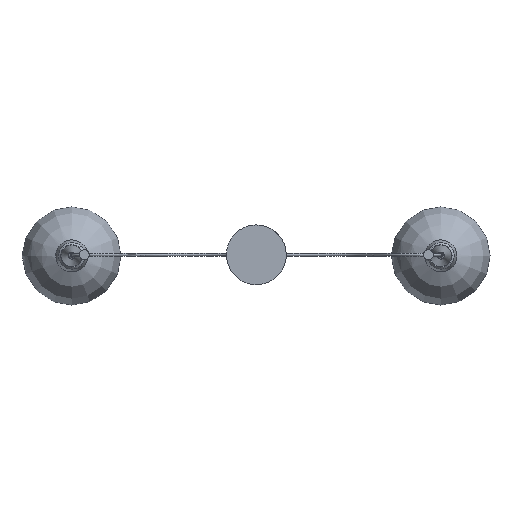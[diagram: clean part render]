
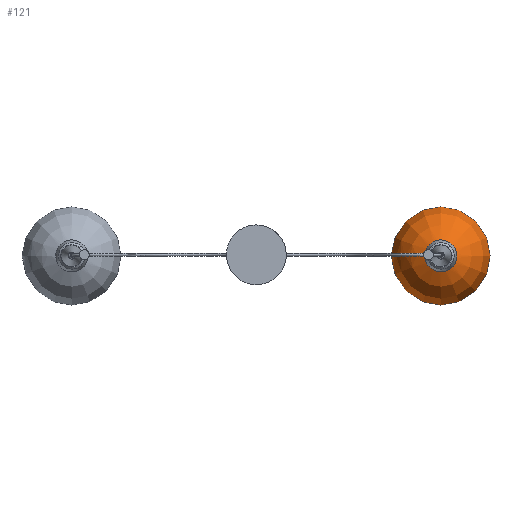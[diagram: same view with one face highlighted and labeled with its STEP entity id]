
A CAD part, top view. The second image highlights one B-rep face of the part: STEP entity #121.
In plain terms, the highlighted free-form (B-spline) face has degree [2, 2] with [5, 9] control points.
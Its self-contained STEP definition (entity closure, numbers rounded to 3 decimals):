
#71=(
BOUNDED_SURFACE()
B_SPLINE_SURFACE(2,2,((#1538,#1539,#1540,#1541,#1542,#1543,#1544,#1545,
#1546),(#1547,#1548,#1549,#1550,#1551,#1552,#1553,#1554,#1555),(#1556,#1557,
#1558,#1559,#1560,#1561,#1562,#1563,#1564),(#1565,#1566,#1567,#1568,#1569,
#1570,#1571,#1572,#1573),(#1574,#1575,#1576,#1577,#1578,#1579,#1580,#1581,
#1582)),.UNSPECIFIED.,.F.,.F.,.F.)
B_SPLINE_SURFACE_WITH_KNOTS((3,2,3),(3,2,2,2,3),(-281.447,-140.723,
0.),(0.,157.072,314.144,471.217,628.289),
 .UNSPECIFIED.)
GEOMETRIC_REPRESENTATION_ITEM()
RATIONAL_B_SPLINE_SURFACE(((1.,0.707,1.,0.707,1.,
0.707,1.,0.707,1.),(0.763,0.539,
0.763,0.539,0.763,0.539,
0.763,0.539,0.763),(1.,0.707,
1.,0.707,1.,0.707,1.,0.707,1.),(0.763,
0.539,0.763,0.539,0.763,
0.539,0.763,0.539,0.763),
(1.,0.707,1.,0.707,1.,0.707,1.,0.707,
1.)))
REPRESENTATION_ITEM('')
SURFACE()
);
#121=ADVANCED_FACE('',(#173),#71,.T.);
#173=FACE_OUTER_BOUND('',#225,.T.);
#225=EDGE_LOOP('',(#323,#324,#325));
#323=ORIENTED_EDGE('',*,*,#469,.T.);
#324=ORIENTED_EDGE('',*,*,#465,.F.);
#325=ORIENTED_EDGE('',*,*,#465,.T.);
#465=EDGE_CURVE('',#639,#643,#565,.T.);
#469=EDGE_CURVE('',#643,#643,#567,.T.);
#565=(
BOUNDED_CURVE()
B_SPLINE_CURVE(2,(#1651,#1652,#1653,#1654,#1655),.UNSPECIFIED.,.F.,.F.)
B_SPLINE_CURVE_WITH_KNOTS((3,2,3),(-281.447,-140.723,
0.),.UNSPECIFIED.)
CURVE()
GEOMETRIC_REPRESENTATION_ITEM()
RATIONAL_B_SPLINE_CURVE((1.,0.763,1.,0.763,1.))
REPRESENTATION_ITEM('')
);
#567=(
BOUNDED_CURVE()
B_SPLINE_CURVE(2,(#1665,#1666,#1667,#1668,#1669,#1670,#1671,#1672,#1673),
 .UNSPECIFIED.,.T.,.F.)
B_SPLINE_CURVE_WITH_KNOTS((3,2,2,2,3),(0.,157.072,314.144,
471.217,628.289),.UNSPECIFIED.)
CURVE()
GEOMETRIC_REPRESENTATION_ITEM()
RATIONAL_B_SPLINE_CURVE((1.,0.707,1.,0.707,1.,0.707,
1.,0.707,1.))
REPRESENTATION_ITEM('')
);
#639=VERTEX_POINT('',#1646);
#643=VERTEX_POINT('',#1650);
#1538=CARTESIAN_POINT('',(-672.837,-642.283,-316.014));
#1539=CARTESIAN_POINT('',(-672.837,-642.283,-316.014));
#1540=CARTESIAN_POINT('',(-672.837,-642.283,-316.014));
#1541=CARTESIAN_POINT('',(-672.837,-642.283,-316.014));
#1542=CARTESIAN_POINT('',(-672.837,-642.283,-316.014));
#1543=CARTESIAN_POINT('',(-672.837,-642.283,-316.014));
#1544=CARTESIAN_POINT('',(-672.837,-642.283,-316.014));
#1545=CARTESIAN_POINT('',(-672.837,-642.283,-316.014));
#1546=CARTESIAN_POINT('',(-672.837,-642.283,-316.014));
#1547=CARTESIAN_POINT('',(-757.686,-642.283,-316.014));
#1548=CARTESIAN_POINT('',(-757.686,-557.434,-316.014));
#1549=CARTESIAN_POINT('',(-672.837,-557.434,-316.014));
#1550=CARTESIAN_POINT('',(-587.988,-557.434,-316.014));
#1551=CARTESIAN_POINT('',(-587.988,-642.283,-316.014));
#1552=CARTESIAN_POINT('',(-587.988,-727.132,-316.014));
#1553=CARTESIAN_POINT('',(-672.837,-727.132,-316.014));
#1554=CARTESIAN_POINT('',(-757.686,-727.132,-316.014));
#1555=CARTESIAN_POINT('',(-757.686,-642.283,-316.014));
#1556=CARTESIAN_POINT('',(-771.502,-642.283,-232.298));
#1557=CARTESIAN_POINT('',(-771.502,-543.618,-232.298));
#1558=CARTESIAN_POINT('',(-672.837,-543.618,-232.298));
#1559=CARTESIAN_POINT('',(-574.171,-543.618,-232.298));
#1560=CARTESIAN_POINT('',(-574.171,-642.283,-232.298));
#1561=CARTESIAN_POINT('',(-574.171,-740.949,-232.298));
#1562=CARTESIAN_POINT('',(-672.837,-740.949,-232.298));
#1563=CARTESIAN_POINT('',(-771.502,-740.949,-232.298));
#1564=CARTESIAN_POINT('',(-771.502,-642.283,-232.298));
#1565=CARTESIAN_POINT('',(-785.318,-642.283,-148.581));
#1566=CARTESIAN_POINT('',(-785.318,-529.802,-148.581));
#1567=CARTESIAN_POINT('',(-672.837,-529.802,-148.581));
#1568=CARTESIAN_POINT('',(-560.355,-529.802,-148.581));
#1569=CARTESIAN_POINT('',(-560.355,-642.283,-148.581));
#1570=CARTESIAN_POINT('',(-560.355,-754.765,-148.581));
#1571=CARTESIAN_POINT('',(-672.837,-754.765,-148.581));
#1572=CARTESIAN_POINT('',(-785.318,-754.765,-148.581));
#1573=CARTESIAN_POINT('',(-785.318,-642.283,-148.581));
#1574=CARTESIAN_POINT('',(-704.969,-642.283,-121.317));
#1575=CARTESIAN_POINT('',(-704.969,-610.151,-121.317));
#1576=CARTESIAN_POINT('',(-672.837,-610.151,-121.317));
#1577=CARTESIAN_POINT('',(-640.705,-610.151,-121.317));
#1578=CARTESIAN_POINT('',(-640.705,-642.283,-121.317));
#1579=CARTESIAN_POINT('',(-640.705,-674.415,-121.317));
#1580=CARTESIAN_POINT('',(-672.837,-674.415,-121.317));
#1581=CARTESIAN_POINT('',(-704.969,-674.415,-121.317));
#1582=CARTESIAN_POINT('',(-704.969,-642.283,-121.317));
#1646=CARTESIAN_POINT('',(-672.837,-642.283,-316.014));
#1650=CARTESIAN_POINT('',(-704.969,-642.283,-121.317));
#1651=CARTESIAN_POINT('',(-672.837,-642.283,-316.014));
#1652=CARTESIAN_POINT('',(-757.686,-642.283,-316.014));
#1653=CARTESIAN_POINT('',(-771.502,-642.283,-232.298));
#1654=CARTESIAN_POINT('',(-785.318,-642.283,-148.581));
#1655=CARTESIAN_POINT('',(-704.969,-642.283,-121.317));
#1665=CARTESIAN_POINT('',(-704.969,-642.283,-121.317));
#1666=CARTESIAN_POINT('',(-704.969,-610.151,-121.317));
#1667=CARTESIAN_POINT('',(-672.837,-610.151,-121.317));
#1668=CARTESIAN_POINT('',(-640.705,-610.151,-121.317));
#1669=CARTESIAN_POINT('',(-640.705,-642.283,-121.317));
#1670=CARTESIAN_POINT('',(-640.705,-674.415,-121.317));
#1671=CARTESIAN_POINT('',(-672.837,-674.415,-121.317));
#1672=CARTESIAN_POINT('',(-704.969,-674.415,-121.317));
#1673=CARTESIAN_POINT('',(-704.969,-642.283,-121.317));
